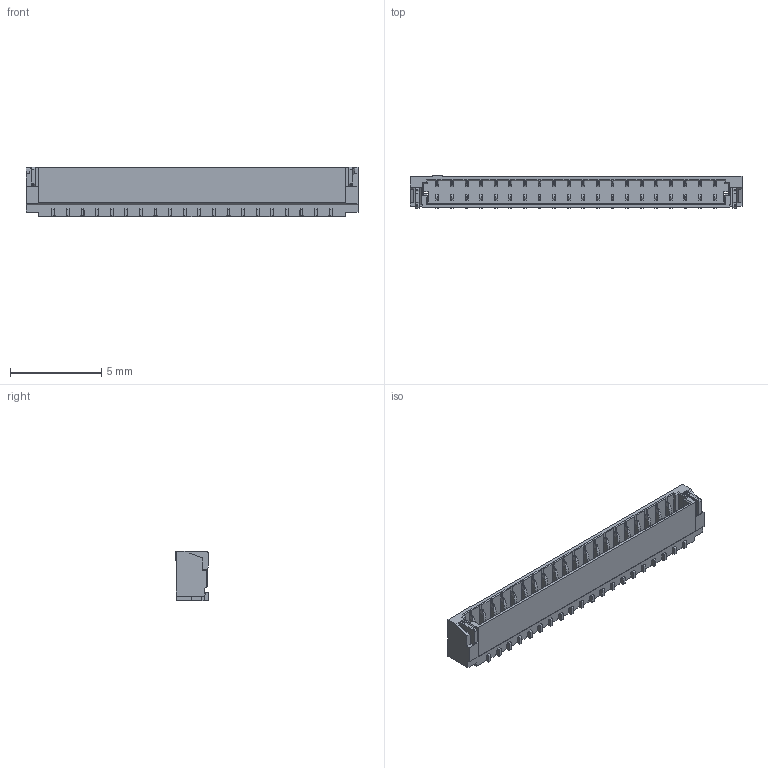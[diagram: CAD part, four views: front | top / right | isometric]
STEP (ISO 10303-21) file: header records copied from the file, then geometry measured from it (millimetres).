
FILE_DESCRIPTION((''),'2;1');
FILE_NAME('SCT0800WRS-20','2023-04-10T16:12:37',('Administrator'),(''),'CREO PARAMETRIC BY PTC INC, 2018050','CREO PARAMETRIC BY PTC INC, 2018050','');
FILE_SCHEMA(('CONFIG_CONTROL_DESIGN'));
Length unit declared in the file: millimetre
Products named in the file (1): SCT0800WRS-20
Bounding box: 18.2 x 1.78 x 2.7 mm (x, y, z)
Volume: 45.5 mm3; surface area: 340.7 mm2
Topology: 1 solids, 1 shells, 1464 faces, 4709 edges, 3024 vertices
Faces by surface type: plane 948, cylinder 516
Entity records: 52473 total; most frequent: CARTESIAN_POINT 10335, ORIENTED_EDGE 9418, DIRECTION 8291, EDGE_CURVE 4709, VECTOR 3619, LINE 3619, VERTEX_POINT 3024, AXIS2_PLACEMENT_3D 2336
